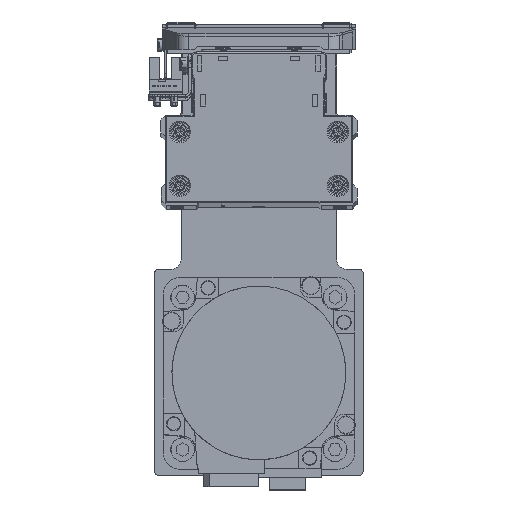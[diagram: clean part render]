
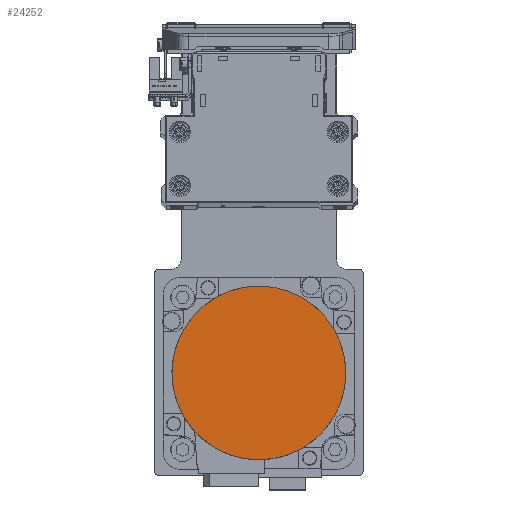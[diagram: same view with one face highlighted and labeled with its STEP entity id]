
A CAD part, top view. The second image highlights one B-rep face of the part: STEP entity #24252.
In plain terms, the highlighted planar face has unit normal (0, 0, 1) as drawn and (0, 0, -1) by its records, which use the part's own axes.
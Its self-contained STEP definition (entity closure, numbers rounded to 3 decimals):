
#3758 = EDGE_CURVE ( 'NONE', #27143, #28073, #9516, .T. ) ;
#6917 = DIRECTION ( 'NONE',  ( 0., 0., 1. ) ) ;
#9516 = CIRCLE ( 'NONE', #32181, 36.3 ) ;
#9607 = DIRECTION ( 'NONE',  ( 0., 0., 1. ) ) ;
#12270 = DIRECTION ( 'NONE',  ( 0., -1., 0. ) ) ;
#12648 = FACE_OUTER_BOUND ( 'NONE', #34317, .T. ) ;
#15294 = ORIENTED_EDGE ( 'NONE', *, *, #15673, .F. ) ;
#15673 = EDGE_CURVE ( 'NONE', #28073, #27143, #18909, .T. ) ;
#16742 = CARTESIAN_POINT ( 'NONE',  ( 0., -36.3, -122.2 ) ) ;
#18909 = CIRCLE ( 'NONE', #24083, 36.3 ) ;
#19289 = DIRECTION ( 'NONE',  ( 0., 1., 0. ) ) ;
#21982 = DIRECTION ( 'NONE',  ( 1., 0., 0. ) ) ;
#23055 = ORIENTED_EDGE ( 'NONE', *, *, #3758, .F. ) ;
#24083 = AXIS2_PLACEMENT_3D ( 'NONE', #34710, #6917, #19289 ) ;
#24252 = ADVANCED_FACE ( 'NONE', ( #12648 ), #25017, .F. ) ;
#25017 = PLANE ( 'NONE',  #34162 ) ;
#27143 = VERTEX_POINT ( 'NONE', #16742 ) ;
#27690 = CARTESIAN_POINT ( 'NONE',  ( 0., 0., -122.2 ) ) ;
#28073 = VERTEX_POINT ( 'NONE', #35762 ) ;
#32181 = AXIS2_PLACEMENT_3D ( 'NONE', #27690, #40061, #12270 ) ;
#34162 = AXIS2_PLACEMENT_3D ( 'NONE', #37395, #9607, #21982 ) ;
#34317 = EDGE_LOOP ( 'NONE', ( #15294, #23055 ) ) ;
#34710 = CARTESIAN_POINT ( 'NONE',  ( 0., 0., -122.2 ) ) ;
#35762 = CARTESIAN_POINT ( 'NONE',  ( 0., 36.3, -122.2 ) ) ;
#37395 = CARTESIAN_POINT ( 'NONE',  ( 0., 0., -122.2 ) ) ;
#40061 = DIRECTION ( 'NONE',  ( 0., 0., 1. ) ) ;
